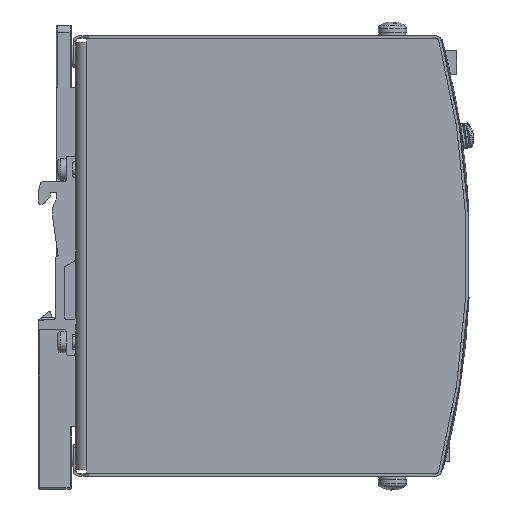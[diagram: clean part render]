
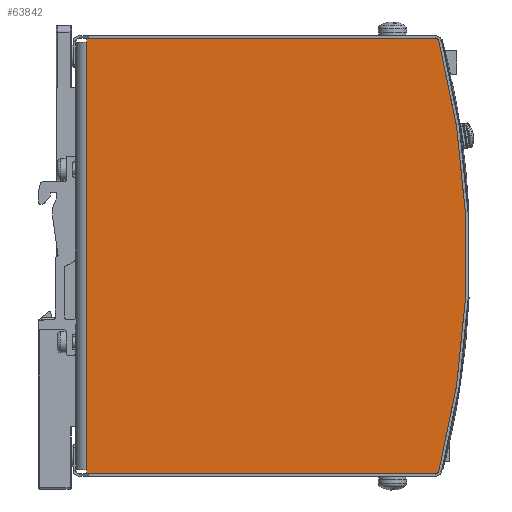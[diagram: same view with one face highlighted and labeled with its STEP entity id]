
A CAD part, front view. The second image highlights one B-rep face of the part: STEP entity #63842.
In plain terms, the highlighted planar face has unit normal (0, -1, 0) as drawn and (1, 0, 0) by its records, which use the part's own axes.
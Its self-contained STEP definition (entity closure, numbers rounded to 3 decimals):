
#63408=CARTESIAN_POINT('',(16.,-60.15,-1.5));
#63409=VERTEX_POINT('',#63408);
#63419=CARTESIAN_POINT('',(16.,60.15,-1.5));
#63420=VERTEX_POINT('',#63419);
#63421=CARTESIAN_POINT('',(16.,-60.15,-1.5));
#63422=DIRECTION('',(0.0,1.0,0.0));
#63423=VECTOR('',#63422,120.3);
#63424=LINE('',#63421,#63423);
#63425=EDGE_CURVE('',#63409,#63420,#63424,.T.);
#63761=CARTESIAN_POINT('',(16.,60.65,-100.193));
#63762=DIRECTION('',(-1.0,0.0,0.0));
#63763=DIRECTION('',(0.0,0.0,1.0));
#63764=AXIS2_PLACEMENT_3D('',#63761,#63762,#63763);
#63765=PLANE('',#63764);
#63766=ORIENTED_EDGE('',*,*,#63425,.F.);
#63767=CARTESIAN_POINT('',(16.,-60.15,-1.6));
#63768=VERTEX_POINT('',#63767);
#63769=CARTESIAN_POINT('',(16.,-60.15,-1.6));
#63770=DIRECTION('',(0.0,0.0,1.0));
#63771=VECTOR('',#63770,0.1);
#63772=LINE('',#63769,#63771);
#63773=EDGE_CURVE('',#63768,#63409,#63772,.T.);
#63774=ORIENTED_EDGE('',*,*,#63773,.F.);
#63775=CARTESIAN_POINT('',(16.,-61.15,-1.6));
#63776=VERTEX_POINT('',#63775);
#63777=CARTESIAN_POINT('',(16.,-61.15,-1.6));
#63778=DIRECTION('',(0.0,1.0,0.0));
#63779=VECTOR('',#63778,1.);
#63780=LINE('',#63777,#63779);
#63781=EDGE_CURVE('',#63776,#63768,#63780,.T.);
#63782=ORIENTED_EDGE('',*,*,#63781,.F.);
#63783=CARTESIAN_POINT('',(16.,-61.15,-100.193));
#63784=VERTEX_POINT('',#63783);
#63785=CARTESIAN_POINT('',(16.,-61.15,-100.193));
#63786=DIRECTION('',(0.0,0.0,1.0));
#63787=VECTOR('',#63786,98.593);
#63788=LINE('',#63785,#63787);
#63789=EDGE_CURVE('',#63784,#63776,#63788,.T.);
#63790=ORIENTED_EDGE('',*,*,#63789,.F.);
#63791=CARTESIAN_POINT('',(16.,-60.777,-100.677));
#63792=VERTEX_POINT('',#63791);
#63793=CARTESIAN_POINT('',(16.,-60.65,-100.193));
#63794=DIRECTION('',(-1.0,0.0,0.0));
#63795=DIRECTION('',(0.0,0.0,1.0));
#63796=AXIS2_PLACEMENT_3D('',#63793,#63794,#63795);
#63797=CIRCLE('',#63796,0.5);
#63798=EDGE_CURVE('',#63792,#63784,#63797,.T.);
#63799=ORIENTED_EDGE('',*,*,#63798,.F.);
#63800=CARTESIAN_POINT('',(16.,60.777,-100.677));
#63801=VERTEX_POINT('',#63800);
#63802=CARTESIAN_POINT('',(16.,0.,131.5));
#63803=DIRECTION('',(-1.0,0.0,0.0));
#63804=DIRECTION('',(0.0,0.0,1.0));
#63805=AXIS2_PLACEMENT_3D('',#63802,#63803,#63804);
#63806=CIRCLE('',#63805,240.0);
#63807=EDGE_CURVE('',#63801,#63792,#63806,.T.);
#63808=ORIENTED_EDGE('',*,*,#63807,.F.);
#63809=CARTESIAN_POINT('',(16.,61.15,-100.193));
#63810=VERTEX_POINT('',#63809);
#63811=CARTESIAN_POINT('',(16.,60.65,-100.193));
#63812=DIRECTION('',(-1.0,0.0,0.0));
#63813=DIRECTION('',(0.0,0.0,1.0));
#63814=AXIS2_PLACEMENT_3D('',#63811,#63812,#63813);
#63815=CIRCLE('',#63814,0.5);
#63816=EDGE_CURVE('',#63810,#63801,#63815,.T.);
#63817=ORIENTED_EDGE('',*,*,#63816,.F.);
#63818=CARTESIAN_POINT('',(16.,61.15,-1.6));
#63819=VERTEX_POINT('',#63818);
#63820=CARTESIAN_POINT('',(16.,61.15,-1.6));
#63821=DIRECTION('',(0.0,0.0,-1.0));
#63822=VECTOR('',#63821,98.593);
#63823=LINE('',#63820,#63822);
#63824=EDGE_CURVE('',#63819,#63810,#63823,.T.);
#63825=ORIENTED_EDGE('',*,*,#63824,.F.);
#63826=CARTESIAN_POINT('',(16.,60.15,-1.6));
#63827=VERTEX_POINT('',#63826);
#63828=CARTESIAN_POINT('',(16.,60.15,-1.6));
#63829=DIRECTION('',(0.0,1.0,0.0));
#63830=VECTOR('',#63829,1.);
#63831=LINE('',#63828,#63830);
#63832=EDGE_CURVE('',#63827,#63819,#63831,.T.);
#63833=ORIENTED_EDGE('',*,*,#63832,.F.);
#63834=CARTESIAN_POINT('',(16.,60.15,-1.5));
#63835=DIRECTION('',(0.0,0.0,-1.0));
#63836=VECTOR('',#63835,0.1);
#63837=LINE('',#63834,#63836);
#63838=EDGE_CURVE('',#63420,#63827,#63837,.T.);
#63839=ORIENTED_EDGE('',*,*,#63838,.F.);
#63840=EDGE_LOOP('',(#63766,#63774,#63782,#63790,#63799,#63808,#63817,#63825,#63833,#63839));
#63841=FACE_OUTER_BOUND('',#63840,.T.);
#63842=ADVANCED_FACE('',(#63841),#63765,.F.);
